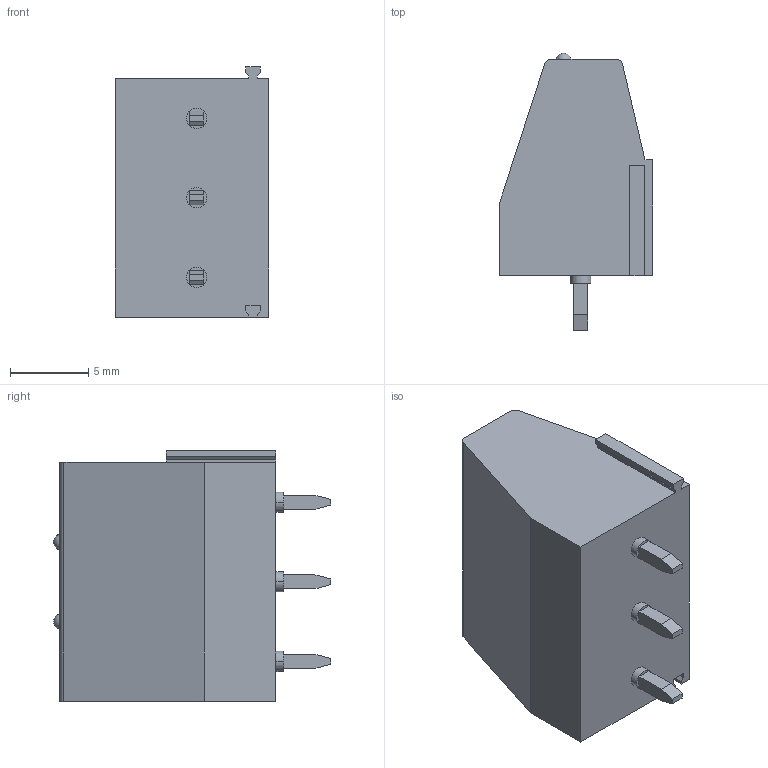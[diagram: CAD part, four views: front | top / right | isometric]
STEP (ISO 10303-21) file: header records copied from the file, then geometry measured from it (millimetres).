
FILE_DESCRIPTION(('SolidDesigner STEP Export'),'2;1');
FILE_NAME('mkds_1.5-3-5.08-ht.stp','2014-11-25T 9:01:34',(''),(''),'Creo Elements/Direct Modeling STEP processor for AP214 (Solid Model)','Creo Elements/Direct Modeling 18.1B 29-Sep-2012 (C) Parametric Technology GmbH','');
FILE_SCHEMA(('AUTOMOTIVE_DESIGN { 1 0 10303 214 1 1 1 1 }'));
Length unit declared in the file: millimetre
Products named in the file (2): mkds_1.5-3-5.08-ht
Assembly tree (1 placements, depth 2):
  mkds_1.5-3-5.08-ht
    mkds_1.5-3-5.08-ht
Bounding box: 9.8 x 17.7 x 15.98 mm (x, y, z)
Volume: 1619.5 mm3; surface area: 1157.6 mm2
Topology: 1 solids, 1 shells, 143 faces, 365 edges, 245 vertices
Faces by surface type: plane 102, cylinder 39, sphere 2
Entity records: 5345 total; most frequent: ORIENTED_EDGE 730, CARTESIAN_POINT 719, DIRECTION 680, EDGE_CURVE 365, VECTOR 268, LINE 268, VERTEX_POINT 245, AXIS2_PLACEMENT_3D 206
